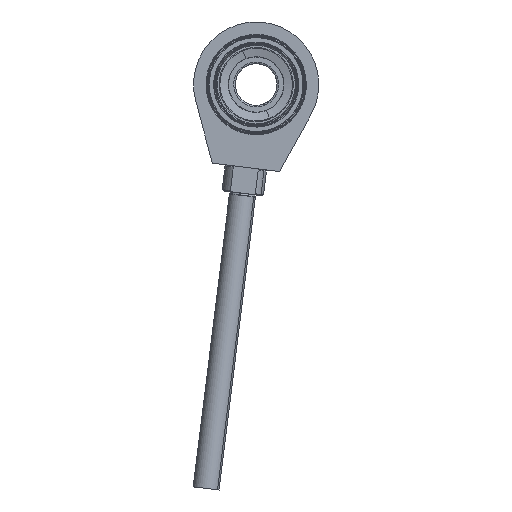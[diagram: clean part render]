
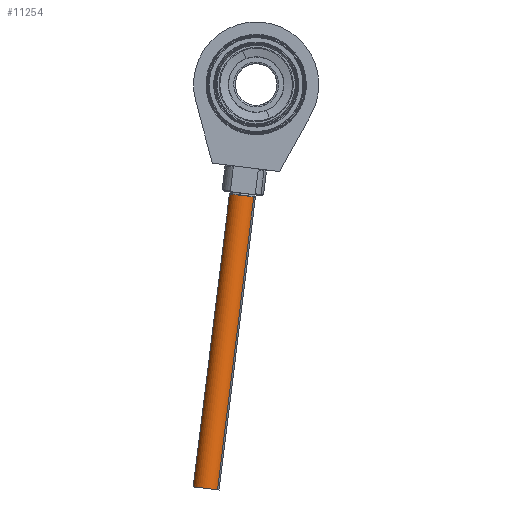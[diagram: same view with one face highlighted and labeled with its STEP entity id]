
A CAD part, front view. The second image highlights one B-rep face of the part: STEP entity #11254.
In plain terms, the highlighted cylindrical face has radius 12.5 mm (diameter 25 mm), a partial arc.
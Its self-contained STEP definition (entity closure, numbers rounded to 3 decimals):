
#11188=AXIS2_PLACEMENT_3D('Circle Axis2P3D',#11186,#11187,$) ;
#11208=AXIS2_PLACEMENT_3D('Cylinder Axis2P3D',#11205,#11206,#11207) ;
#11245=AXIS2_PLACEMENT_3D('Circle Axis2P3D',#11243,#11244,$) ;
#11157=CARTESIAN_POINT('Vertex',(622.929,-868.493,2318.499)) ;
#11164=CARTESIAN_POINT('Vertex',(601.156,-856.507,2321.193)) ;
#11186=CARTESIAN_POINT('Axis2P3D Location',(612.043,-862.5,2319.846)) ;
#11205=CARTESIAN_POINT('Axis2P3D Location',(596.343,-862.5,2192.99)) ;
#11210=CARTESIAN_POINT('Line Origine',(605.561,-868.493,2178.158)) ;
#11214=CARTESIAN_POINT('Vertex',(588.192,-868.493,2037.816)) ;
#11221=CARTESIAN_POINT('Vertex',(566.418,-856.507,2040.511)) ;
#11224=CARTESIAN_POINT('Line Origine',(583.787,-856.507,2180.852)) ;
#11243=CARTESIAN_POINT('Axis2P3D Location',(577.305,-862.5,2039.164)) ;
#11187=DIRECTION('Axis2P3D Direction',(-0.123,0.,-0.992)) ;
#11206=DIRECTION('Axis2P3D Direction',(-0.123,0.,-0.992)) ;
#11207=DIRECTION('Axis2P3D XDirection',(0.871,-0.479,-0.108)) ;
#11211=DIRECTION('Vector Direction',(-0.123,0.,-0.992)) ;
#11225=DIRECTION('Vector Direction',(-0.123,0.,-0.992)) ;
#11244=DIRECTION('Axis2P3D Direction',(-0.123,0.,-0.992)) ;
#11212=VECTOR('Line Direction',#11211,1.) ;
#11226=VECTOR('Line Direction',#11225,1.) ;
#11249=ORIENTED_EDGE('',*,*,#11228,.T.) ;
#11250=ORIENTED_EDGE('',*,*,#11247,.F.) ;
#11251=ORIENTED_EDGE('',*,*,#11216,.F.) ;
#11252=ORIENTED_EDGE('',*,*,#11190,.T.) ;
#11254=ADVANCED_FACE('130_GasBalancer_pull_rod.4\\Pulltype_a.1',(#11253),#11209,.T.) ;
#11189=CIRCLE('generated circle',#11188,12.5) ;
#11246=CIRCLE('generated circle',#11245,12.5) ;
#11209=CYLINDRICAL_SURFACE('generated cylinder',#11208,12.5) ;
#11190=EDGE_CURVE('',#11158,#11165,#11189,.T.) ;
#11216=EDGE_CURVE('',#11158,#11215,#11213,.T.) ;
#11228=EDGE_CURVE('',#11165,#11222,#11227,.T.) ;
#11247=EDGE_CURVE('',#11215,#11222,#11246,.T.) ;
#11248=EDGE_LOOP('',(#11249,#11250,#11251,#11252)) ;
#11253=FACE_OUTER_BOUND('',#11248,.T.) ;
#11213=LINE('Line',#11210,#11212) ;
#11227=LINE('Line',#11224,#11226) ;
#11158=VERTEX_POINT('',#11157) ;
#11165=VERTEX_POINT('',#11164) ;
#11215=VERTEX_POINT('',#11214) ;
#11222=VERTEX_POINT('',#11221) ;
